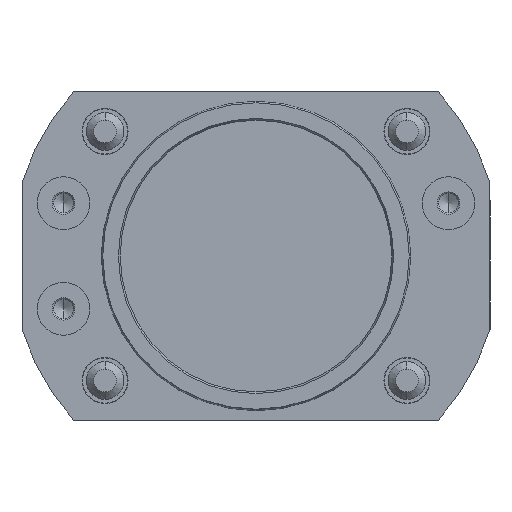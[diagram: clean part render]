
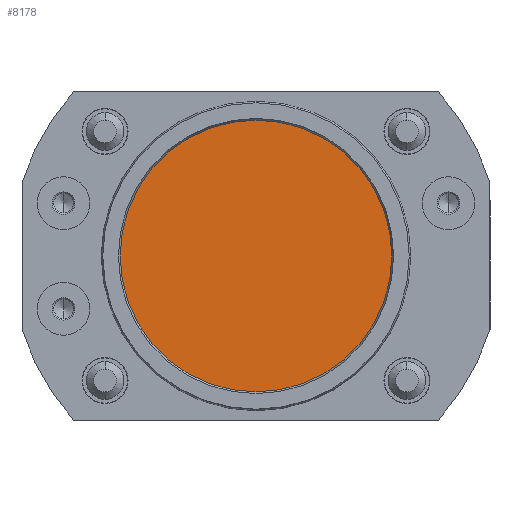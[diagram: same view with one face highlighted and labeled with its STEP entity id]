
A CAD part, front view. The second image highlights one B-rep face of the part: STEP entity #8178.
In plain terms, the highlighted planar face has unit normal (0, -1, 0).
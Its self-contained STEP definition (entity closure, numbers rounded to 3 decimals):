
#2498 = AXIS2_PLACEMENT_3D ( 'NONE', #2567, #2566, #2565 ) ;
#2536 = CIRCLE ( 'NONE', #2498, 18. ) ;
#2565 = DIRECTION ( 'NONE',  ( 0., 0., 1. ) ) ;
#2566 = DIRECTION ( 'NONE',  ( 0., 1., 0. ) ) ;
#2567 = CARTESIAN_POINT ( 'NONE',  ( 0., 3., 0. ) ) ;
#2611 = PLANE ( 'NONE',  #2671 ) ;
#2646 = FACE_OUTER_BOUND ( 'NONE', #8055, .T. ) ;
#2671 = AXIS2_PLACEMENT_3D ( 'NONE', #2698, #2697, #2696 ) ;
#2696 = DIRECTION ( 'NONE',  ( 0., 0., -1. ) ) ;
#2697 = DIRECTION ( 'NONE',  ( 0., -1., 0. ) ) ;
#2698 = CARTESIAN_POINT ( 'NONE',  ( 0., 3., 0. ) ) ;
#3345 = CARTESIAN_POINT ( 'NONE',  ( 0., 3., -18. ) ) ;
#3358 = CIRCLE ( 'NONE', #3361, 18. ) ;
#3361 = AXIS2_PLACEMENT_3D ( 'NONE', #3375, #3369, #3417 ) ;
#3369 = DIRECTION ( 'NONE',  ( 0., 1., 0. ) ) ;
#3372 = CARTESIAN_POINT ( 'NONE',  ( 0., 3., 18. ) ) ;
#3375 = CARTESIAN_POINT ( 'NONE',  ( 0., 3., 0. ) ) ;
#3417 = DIRECTION ( 'NONE',  ( 0., 0., 1. ) ) ;
#8055 = EDGE_LOOP ( 'NONE', ( #8059, #8114 ) ) ;
#8059 = ORIENTED_EDGE ( 'NONE', *, *, #8118, .F. ) ;
#8114 = ORIENTED_EDGE ( 'NONE', *, *, #8521, .F. ) ;
#8118 = EDGE_CURVE ( 'NONE', #8513, #8502, #2536, .T. ) ;
#8178 = ADVANCED_FACE ( 'NONE', ( #2646 ), #2611, .T. ) ;
#8502 = VERTEX_POINT ( 'NONE', #3345 ) ;
#8513 = VERTEX_POINT ( 'NONE', #3372 ) ;
#8521 = EDGE_CURVE ( 'NONE', #8502, #8513, #3358, .T. ) ;
